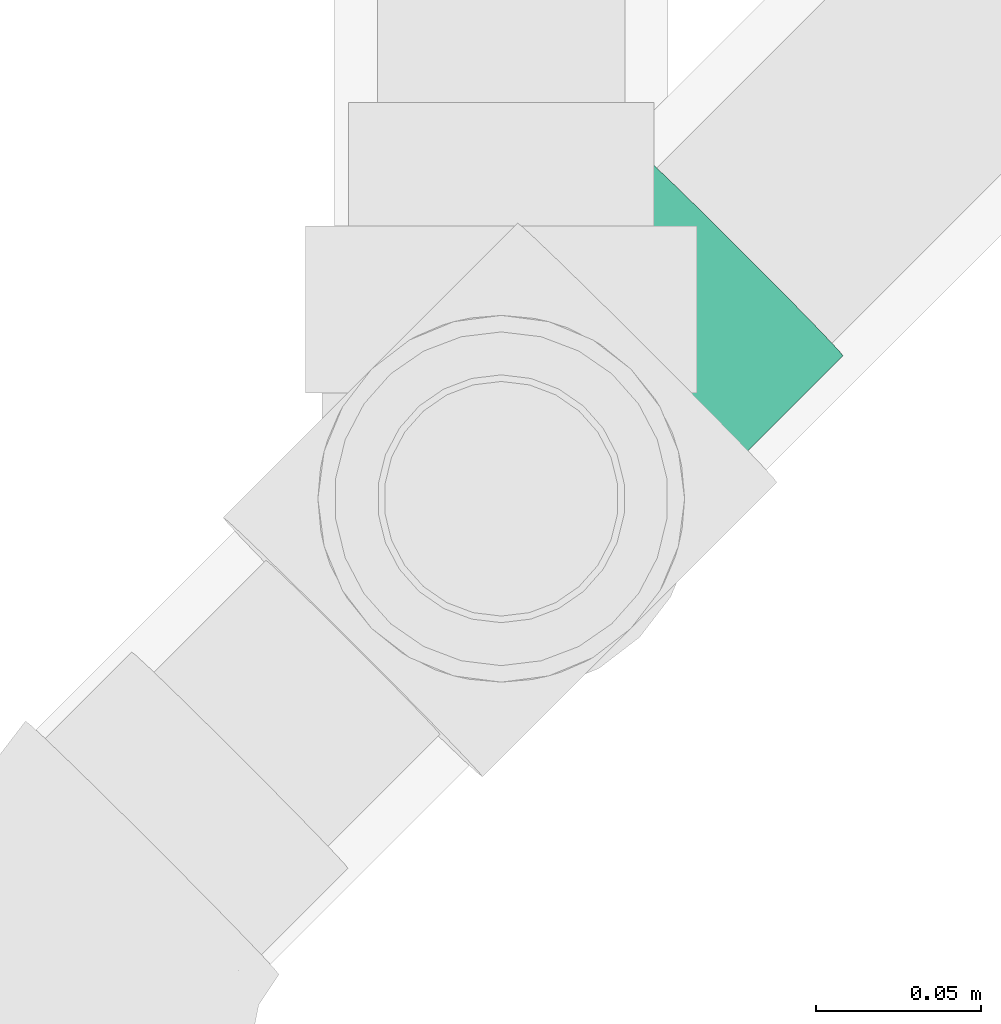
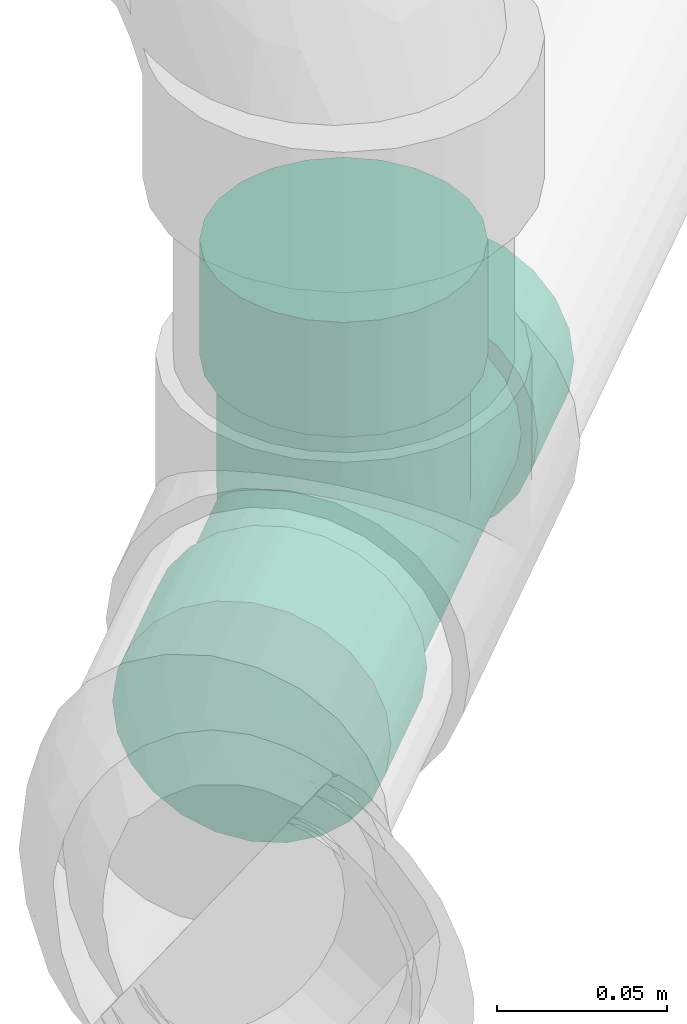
# One storey, part 110 of 156: 1 flow fitting.
"""IFC2X3 building model written with IfcOpenShell, lengths in millimetres."""

from ifc_helpers import new_model, entity, si_unit, converted_unit, derived_unit, direction, frame, origin_with_axes, place, context, subcontext, project, spatial, open_shell, surface_model, source, transform, mapped, type_object, element, save


model = new_model("IFC2X3")

# Units and contexts
model_context = context("Model", 3, precision=0.01, world=frame((0.0, 4.29681676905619e-09, 0.0)), true_north=direction((4.01073788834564e-13, 1.0)))
plan_context = context("Plan", 3, precision=0.01, world=frame((0.0, 4.29681676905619e-09, 0.0)), true_north=direction((4.01073788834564e-13, 1.0)))
body_context = subcontext(model_context, "Body", "Model", "MODEL_VIEW")
ifc_project = project(units=[converted_unit("PLANEANGLEUNIT", "DEGREE", entity("IfcPositiveLengthMeasure", 0.0174532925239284), si_unit("PLANEANGLEUNIT", "RADIAN"), dimensions=[0, 0, 0, 0, 0, 0, 0]), si_unit("AREAUNIT", "SQUARE_METRE"), si_unit("LENGTHUNIT", "METRE", prefix="MILLI"), si_unit("MASSUNIT", "GRAM", prefix="KILO"), si_unit("POWERUNIT", "WATT"), si_unit("PRESSUREUNIT", "PASCAL", prefix="KILO"), si_unit("FORCEUNIT", "NEWTON", prefix="KILO"), si_unit("ELECTRICVOLTAGEUNIT", "VOLT"), si_unit("ELECTRICCURRENTUNIT", "AMPERE"), si_unit("THERMODYNAMICTEMPERATUREUNIT", "DEGREE_CELSIUS"), si_unit("TIMEUNIT", "SECOND"), si_unit("VOLUMEUNIT", "CUBIC_METRE"), derived_unit("LINEARVELOCITYUNIT", [(si_unit("LENGTHUNIT", "METRE"), 1), (si_unit("TIMEUNIT", "SECOND"), -1)]), derived_unit("VOLUMETRICFLOWRATEUNIT", [(si_unit("VOLUMEUNIT", "CUBIC_METRE"), 1), (si_unit("TIMEUNIT", "SECOND"), -1)]), derived_unit("THERMALTRANSMITTANCEUNIT", [(si_unit("POWERUNIT", "WATT"), 1), (si_unit("THERMODYNAMICTEMPERATUREUNIT", "KELVIN"), -1), (si_unit("AREAUNIT", "SQUARE_METRE"), -1)]), derived_unit("SOUNDPRESSUREUNIT", [(si_unit("PRESSUREUNIT", "PASCAL"), 1)])], contexts=[model_context, plan_context])

# Site, building, storey
site_placement = place(None, frame((0.0, -4.29681676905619e-09, 0.0), z_axis=(0.0, 0.0, 1.0), x_axis=(1.0, 0.0, 0.0)))
site = spatial("IfcSite", under=ifc_project, at=site_placement, CompositionType="ELEMENT")
building_placement = place(site_placement, frame((0.0, 4.29681676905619e-09, 0.0), z_axis=(0.0, 0.0, 1.0), x_axis=(1.0, 0.0, 0.0)))
building = spatial("IfcBuilding", under=site, at=building_placement, Name="mc-building", CompositionType="ELEMENT")
storey_placement = place(building_placement, frame((0.0, 0.0, 205200.0), z_axis=(0.0, 0.0, 1.0), x_axis=(1.0, 0.0, 0.0)))
storey = spatial("IfcBuildingStorey", under=building, at=storey_placement, Name="Nivå D + 1,2 m", CompositionType="ELEMENT", Elevation=205200.0)

# Flow fitting
pipe_fitting_type = type_object("IfcPipeFittingType", Name="magi_sewer_tee_wye_NOR", PredefinedType="JUNCTION")
shared_shape = source(origin_with_axes(), body_context, "Body", "SurfaceModel", [
    surface_model("IfcShellBasedSurfaceModel", [(104.79898, 21.25, -36.80608), (104.79898, -10.99981, -41.05185), (104.79898, 10.99981, -41.05185), (104.79898, 36.80608, -21.25), (104.79898, 30.05204, -30.05204), (104.79898, 41.05185, -10.99981), (104.79898, 42.5, 0.0), (104.79898, -41.05185, -10.99981), (104.79898, -21.25, -36.80608), (104.79898, 0.0, -42.5), (104.79898, -30.05204, -30.05204), (104.79898, -36.80608, -21.25), (104.79898, 41.05185, 10.99981), (104.79898, 36.80608, 21.25), (104.79898, 30.05204, 30.05204), (104.79898, 10.99981, 41.05185), (104.79898, -36.80608, 21.25), (104.79898, 21.25, 36.80608), (104.79898, -10.99981, 41.05185), (104.79898, 0.0, 42.5), (104.79898, -41.05185, 10.99981), (104.79898, -42.5, 0.0), (104.79898, -30.05204, 30.05204), (104.79898, -21.25, 36.80608), (63.54898, 10.99981, 41.05185), (63.54898, -10.99981, 41.05185), (63.54898, 0.0, 42.5), (63.54898, 41.05185, 10.99981), (63.54898, 21.25, 36.80608), (63.54898, 30.05204, 30.05204), (63.54898, 36.80608, 21.25), (63.54898, -41.05185, -10.99981), (63.54898, -42.5, 0.0), (63.54898, -30.05204, 30.05204), (63.54898, -21.25, 36.80608), (63.54898, -36.80608, 21.25), (63.54898, -41.05185, 10.99981), (63.54898, 42.5, 0.0), (63.54898, 41.05185, -10.99981), (63.54898, 36.80608, -21.25), (63.54898, 21.25, -36.80608), (63.54898, 30.05204, -30.05204), (63.54898, -10.99981, -41.05185), (63.54898, 10.99981, -41.05185), (63.54898, -30.05204, -30.05204), (63.54898, -36.80608, -21.25), (63.54898, -21.25, -36.80608), (63.54898, 0.0, -42.5), (1.05421, -63.12271, -42.5), (-9.94406, -63.3064, -41.05185), (12.05249, -62.93903, -41.05185), (22.30125, -62.76787, -36.80608), (37.85516, -62.5081, -21.25), (43.54829, -62.41302, 0.0), (31.10206, -62.62089, -30.05204), (-41.43986, -63.83241, 0.0), (-20.19282, -63.47756, 36.80608), (-28.99363, -63.62455, -30.05204), (-35.74673, -63.73733, -21.25), (-20.19282, -63.47756, -36.80608), (-39.99191, -63.80823, -10.99981), (42.10034, -62.4372, -10.99981), (37.85516, -62.5081, 21.25), (42.10034, -62.4372, 10.99981), (22.30125, -62.76787, 36.80608), (31.10206, -62.62089, 30.05204), (12.05249, -62.93903, 41.05185), (1.05421, -63.12271, 42.5), (-28.99363, -63.62455, 30.05204), (-35.74673, -63.73733, 21.25), (-39.99191, -63.80823, 10.99981), (-9.94406, -63.3064, 41.05185), (12.74131, -104.18328, -41.05185), (-9.25524, -104.55065, -41.05185), (1.74303, -104.36697, -42.5), (22.99007, -104.01212, -36.80608), (44.23711, -103.65727, 0.0), (38.54398, -103.75235, -21.25), (31.79088, -103.86514, -30.05204), (-19.504, -104.72181, 36.80608), (-40.75104, -105.07665, 0.0), (-19.504, -104.72181, -36.80608), (-35.05791, -104.98157, -21.25), (-28.30481, -104.86879, -30.05204), (-39.30309, -105.05247, -10.99981), (42.78916, -103.68145, -10.99981), (42.78916, -103.68145, 10.99981), (38.54398, -103.75235, 21.25), (22.99007, -104.01212, 36.80608), (31.79088, -103.86514, 30.05204), (1.74303, -104.36697, 42.5), (12.74131, -104.18328, 41.05185), (-28.30481, -104.86879, 30.05204), (-35.05791, -104.98157, 21.25), (-39.30309, -105.05247, 10.99981), (-9.25524, -104.55065, 41.05185), (-103.74477, -21.25, -36.80608), (-103.74477, 10.99981, -41.05185), (-103.74477, -10.99981, -41.05185), (-103.74477, -36.80608, -21.25), (-103.74477, -30.05204, -30.05204), (-103.74477, -41.05185, -10.99981), (-103.74477, -42.5, 0.0), (-103.74477, 41.05185, -10.99981), (-103.74477, 21.25, -36.80608), (-103.74477, 0.0, -42.5), (-103.74477, 30.05204, -30.05204), (-103.74477, 36.80608, -21.25), (-103.74477, -41.05185, 10.99981), (-103.74477, -36.80608, 21.25), (-103.74477, -30.05204, 30.05204), (-103.74477, -10.99981, 41.05185), (-103.74477, 36.80608, 21.25), (-103.74477, -21.25, 36.80608), (-103.74477, 10.99981, 41.05185), (-103.74477, 0.0, 42.5), (-103.74477, 41.05185, 10.99981), (-103.74477, 42.5, 0.0), (-103.74477, 30.05204, 30.05204), (-103.74477, 21.25, 36.80608), (-62.49477, -10.99981, 41.05185), (-62.49477, 10.99981, 41.05185), (-62.49477, 0.0, 42.5), (-62.49477, -41.05185, 10.99981), (-62.49477, -21.25, 36.80608), (-62.49477, -30.05204, 30.05204), (-62.49477, -36.80608, 21.25), (-62.49477, 41.05185, -10.99981), (-62.49477, 42.5, 0.0), (-62.49477, 30.05204, 30.05204), (-62.49477, 21.25, 36.80608), (-62.49477, 36.80608, 21.25), (-62.49477, 41.05185, 10.99981), (-62.49477, -42.5, 0.0), (-62.49477, -41.05185, -10.99981), (-62.49477, -36.80608, -21.25), (-62.49477, -21.25, -36.80608), (-62.49477, -30.05204, -30.05204), (-62.49477, 10.99981, -41.05185), (-62.49477, -10.99981, -41.05185), (-62.49477, 30.05204, -30.05204), (-62.49477, 36.80608, -21.25), (-62.49477, 21.25, -36.80608), (-62.49477, 0.0, -42.5), (63.54898, 36.22222, -9.70571), (63.54898, 9.70571, -36.22222), (63.54898, 18.75, -32.47595), (63.54898, 32.47595, -18.75), (63.54898, 26.5165, -26.5165), (63.54898, 37.5, 0.0), (63.54898, -36.22222, -9.70571), (63.54898, 36.22222, 9.70571), (63.54898, 0.0, -37.5), (63.54898, -18.75, -32.47595), (63.54898, -9.70571, -36.22222), (63.54898, -32.47595, -18.75), (63.54898, -26.5165, -26.5165), (63.54898, 32.47595, 18.75), (63.54898, 26.5165, 26.5165), (63.54898, 18.75, 32.47595), (63.54898, 9.70571, 36.22222), (63.54898, 0.0, 37.5), (63.54898, -37.5, 0.0), (63.54898, -32.47595, 18.75), (63.54898, -36.22222, 9.70571), (63.54898, -26.5165, 26.5165), (63.54898, -18.75, 32.47595), (63.54898, -9.70571, 36.22222), (-62.49477, 0.0, 37.5), (-62.49477, 9.70571, 36.22222), (-62.49477, 18.75, 32.47595), (-62.49477, 26.5165, 26.5165), (-62.49477, 32.47595, 18.75), (-62.49477, 36.22222, 9.70571), (-62.49477, -26.5165, 26.5165), (-62.49477, -36.22222, -9.70571), (-62.49477, -18.75, 32.47595), (-62.49477, -9.70571, 36.22222), (-62.49477, -32.47595, 18.75), (-62.49477, -37.5, 0.0), (-62.49477, -36.22222, 9.70571), (-62.49477, 36.22222, -9.70571), (-62.49477, 9.70571, -36.22222), (-62.49477, 32.47595, -18.75), (-62.49477, 26.5165, -26.5165), (-62.49477, 18.75, -32.47595), (-62.49477, -32.47595, -18.75), (-62.49477, -18.75, -32.47595), (-62.49477, -26.5165, -26.5165), (-62.49477, 0.0, -37.5), (-62.49477, -9.70571, -36.22222), (-62.49477, 37.5, 0.0), (-62.49477, -36.86111, -4.85286), (-35.85639, -36.46023, -8.76935), (-36.36767, -36.98011, -4.38468), (-62.49477, -34.34909, -14.22786), (-34.44019, -35.02018, -12.7307), (35.56865, -34.97958, -12.83346), (63.54898, -34.34909, -14.22786), (-33.024, -33.58014, -16.69205), (-18.27415, -18.5819, -32.57243), (-62.49477, -22.63325, -29.49623), (-28.87369, -29.35994, -23.32904), (-62.49477, -29.49623, -22.63325), (-23.85274, -24.25444, -28.60022), (-30.94884, -31.47004, -20.01055), (34.08349, -33.51901, -16.81445), (63.54898, -36.86111, -4.85286), (37.59266, -36.97007, -4.42623), (37.05381, -36.44014, -8.85247), (38.13152, -37.5, 0.0), (63.54898, -22.63325, -29.49623), (18.79664, -18.48534, -32.62732), (29.75881, -29.26596, -23.44682), (24.55558, -24.1489, -28.68938), (63.54898, -29.49623, -22.63325), (31.92115, -31.39249, -20.13063), (-36.87894, -37.5, 0.0), (-12.34688, -12.5548, -35.33592), (-6.21875, -6.32347, -36.96301), (0.0, 0.0, -37.5), (12.69279, -12.48258, -35.36149), (6.39087, -6.28503, -36.96956), (-6.21875, -6.32347, 36.96301), (0.0, 0.0, 37.5), (-12.34688, -12.5548, 35.33592), (31.92115, -31.39249, 20.13063), (63.54898, -29.49623, 22.63325), (29.75881, -29.26596, 23.44682), (63.54898, -34.34909, 14.22786), (34.08349, -33.51901, 16.81445), (35.56865, -34.97958, 12.83346), (-36.36767, -36.98011, 4.38468), (-62.49477, -36.86111, 4.85286), (37.59266, -36.97007, 4.42623), (37.05381, -36.44014, 8.85247), (6.39087, -6.28503, 36.96956), (12.69279, -12.48258, 35.36149), (24.55558, -24.1489, 28.68938), (63.54898, -22.63325, 29.49623), (-62.49477, -22.63325, 29.49623), (-23.85274, -24.25444, 28.60022), (-33.024, -33.58014, 16.69205), (-62.49477, -34.34909, 14.22786), (-18.27415, -18.5819, 32.57243), (-28.87369, -29.35994, 23.32904), (-30.94884, -31.47004, 20.01055), (-62.49477, -29.49623, 22.63325), (-35.85639, -36.46023, 8.76935), (-34.44019, -35.02018, 12.7307), (63.54898, -36.86111, 4.85286), (18.79664, -18.48534, 32.62732), (10.75857, -62.96064, -36.22222), (-25.45859, -63.56551, -26.5165), (1.05421, -63.12271, -37.5), (33.52564, -62.58041, -18.75), (19.8016, -62.80962, -32.47595), (37.27138, -62.51785, -9.70571), (27.56702, -62.67992, -26.5165), (-8.65015, -63.28479, -36.22222), (-17.69317, -63.43582, -32.47595), (-35.16295, -63.72758, -9.70571), (-31.41721, -63.66502, -18.75), (-31.41721, -63.66502, 18.75), (-36.44056, -63.74892, 0.0), (38.54899, -62.49651, 0.0), (37.27138, -62.51785, 9.70571), (33.52564, -62.58041, 18.75), (19.8016, -62.80962, 32.47595), (-17.69317, -63.43582, 32.47595), (27.56702, -62.67992, 26.5165), (10.75857, -62.96064, 36.22222), (-25.45859, -63.56551, 26.5165), (-35.16295, -63.72758, 9.70571), (-8.65015, -63.28479, 36.22222), (1.05421, -63.12271, 37.5)], [open_shell([[[0, 1, 2]], [[3, 0, 4]], [[3, 5, 6]], [[3, 6, 0]], [[1, 0, 6]], [[1, 7, 8]], [[1, 9, 2]], [[10, 7, 11]], [[7, 10, 8]], [[6, 7, 1]], [[6, 12, 7]], [[12, 13, 14]], [[12, 14, 15]], [[7, 15, 16]], [[15, 14, 17]], [[18, 15, 19]], [[16, 20, 7]], [[21, 7, 20]], [[22, 18, 23]], [[18, 22, 16]], [[18, 16, 15]], [[15, 7, 12]], [[24, 25, 26]], [[27, 24, 28]], [[29, 30, 27]], [[29, 27, 28]], [[31, 32, 24]], [[25, 33, 34]], [[33, 25, 35]], [[25, 36, 35]], [[36, 25, 32]], [[25, 24, 32]], [[24, 27, 31]], [[37, 38, 39]], [[37, 39, 40]], [[40, 31, 27]], [[40, 39, 41]], [[42, 40, 43]], [[31, 44, 45]], [[44, 31, 46]], [[31, 42, 46]], [[31, 40, 42]], [[43, 47, 42]], [[40, 27, 37]], [[31, 7, 32]], [[45, 11, 31]], [[46, 8, 44]], [[44, 10, 45]], [[31, 11, 7]], [[7, 21, 32]], [[9, 1, 42]], [[1, 8, 46]], [[10, 44, 8]], [[10, 11, 45]], [[42, 1, 46]], [[42, 47, 9]], [[2, 43, 40]], [[41, 0, 40]], [[3, 39, 38]], [[41, 39, 4]], [[5, 38, 37]], [[43, 2, 9]], [[40, 0, 2]], [[41, 4, 0]], [[39, 3, 4]], [[5, 3, 38]], [[37, 6, 5]], [[43, 9, 47]], [[27, 12, 37]], [[30, 13, 27]], [[17, 29, 28]], [[30, 29, 14]], [[15, 28, 24]], [[27, 13, 12]], [[12, 6, 37]], [[15, 26, 19]], [[15, 17, 28]], [[14, 29, 17]], [[14, 13, 30]], [[26, 15, 24]], [[18, 25, 34]], [[33, 23, 34]], [[16, 35, 36]], [[33, 35, 22]], [[20, 36, 32]], [[34, 23, 18]], [[18, 19, 25]], [[22, 23, 33]], [[35, 16, 22]], [[20, 16, 36]], [[32, 21, 20]], [[25, 19, 26]], [[48, 49, 50]], [[51, 50, 52]], [[53, 52, 50]], [[54, 51, 52]], [[50, 55, 56]], [[57, 58, 59]], [[49, 59, 55]], [[60, 55, 58]], [[59, 58, 55]], [[55, 50, 49]], [[61, 52, 53]], [[62, 63, 53]], [[64, 62, 53]], [[56, 64, 53]], [[65, 62, 64]], [[66, 64, 67]], [[68, 56, 69]], [[69, 55, 70]], [[71, 67, 56]], [[56, 55, 69]], [[64, 56, 67]], [[56, 53, 50]], [[72, 73, 74]], [[75, 76, 72]], [[76, 75, 77]], [[77, 75, 78]], [[79, 80, 72]], [[81, 82, 83]], [[80, 81, 73]], [[82, 80, 84]], [[80, 82, 81]], [[73, 72, 80]], [[76, 77, 85]], [[76, 86, 87]], [[76, 87, 88]], [[76, 88, 79]], [[88, 87, 89]], [[90, 88, 91]], [[80, 92, 93]], [[94, 80, 93]], [[79, 90, 95]], [[80, 79, 92]], [[90, 79, 88]], [[72, 76, 79]], [[94, 55, 80]], [[93, 70, 94]], [[68, 92, 79]], [[93, 92, 69]], [[56, 79, 95]], [[93, 69, 70]], [[70, 55, 94]], [[90, 67, 71]], [[68, 79, 56]], [[68, 69, 92]], [[95, 71, 56]], [[71, 95, 90]], [[64, 91, 88]], [[89, 65, 88]], [[63, 87, 86]], [[89, 87, 62]], [[53, 86, 76]], [[91, 66, 90]], [[91, 64, 66]], [[90, 66, 67]], [[88, 65, 64]], [[89, 62, 65]], [[63, 62, 87]], [[86, 53, 63]], [[85, 53, 76]], [[77, 61, 85]], [[78, 75, 54]], [[77, 78, 52]], [[50, 75, 72]], [[77, 52, 61]], [[61, 53, 85]], [[51, 54, 75]], [[50, 72, 48]], [[54, 52, 78]], [[75, 50, 51]], [[72, 74, 48]], [[59, 73, 81]], [[83, 57, 81]], [[60, 82, 84]], [[83, 82, 58]], [[55, 84, 80]], [[73, 49, 74]], [[73, 59, 49]], [[74, 49, 48]], [[81, 57, 59]], [[83, 58, 57]], [[60, 58, 82]], [[84, 55, 60]], [[96, 97, 98]], [[99, 96, 100]], [[99, 101, 102]], [[99, 102, 96]], [[97, 96, 102]], [[97, 103, 104]], [[97, 105, 98]], [[106, 103, 107]], [[103, 106, 104]], [[102, 103, 97]], [[102, 108, 103]], [[108, 109, 110]], [[108, 110, 111]], [[103, 111, 112]], [[111, 110, 113]], [[114, 111, 115]], [[112, 116, 103]], [[117, 103, 116]], [[118, 114, 119]], [[114, 118, 112]], [[114, 112, 111]], [[111, 103, 108]], [[120, 121, 122]], [[123, 120, 124]], [[125, 126, 123]], [[125, 123, 124]], [[127, 128, 120]], [[121, 129, 130]], [[129, 121, 131]], [[121, 132, 131]], [[132, 121, 128]], [[121, 120, 128]], [[120, 123, 127]], [[133, 134, 135]], [[133, 135, 136]], [[136, 127, 123]], [[136, 135, 137]], [[138, 136, 139]], [[127, 140, 141]], [[140, 127, 142]], [[127, 138, 142]], [[127, 136, 138]], [[139, 143, 138]], [[136, 123, 133]], [[127, 103, 128]], [[141, 107, 127]], [[142, 104, 140]], [[140, 106, 141]], [[127, 107, 103]], [[103, 117, 128]], [[105, 97, 138]], [[97, 104, 142]], [[106, 140, 104]], [[106, 107, 141]], [[138, 97, 142]], [[138, 143, 105]], [[98, 139, 136]], [[137, 96, 136]], [[99, 135, 134]], [[137, 135, 100]], [[101, 134, 133]], [[139, 98, 105]], [[136, 96, 98]], [[137, 100, 96]], [[135, 99, 100]], [[101, 99, 134]], [[133, 102, 101]], [[139, 105, 143]], [[123, 108, 133]], [[126, 109, 123]], [[113, 125, 124]], [[126, 125, 110]], [[111, 124, 120]], [[123, 109, 108]], [[108, 102, 133]], [[111, 122, 115]], [[111, 113, 124]], [[110, 125, 113]], [[110, 109, 126]], [[122, 111, 120]], [[114, 121, 130]], [[129, 119, 130]], [[112, 131, 132]], [[129, 131, 118]], [[116, 132, 128]], [[130, 119, 114]], [[114, 115, 121]], [[118, 119, 129]], [[131, 112, 118]], [[116, 112, 132]], [[128, 117, 116]], [[121, 115, 122]], [[144, 145, 146]], [[147, 146, 148]], [[144, 149, 145]], [[144, 146, 147]], [[150, 145, 151]], [[152, 153, 154]], [[153, 152, 155]], [[153, 155, 156]], [[155, 152, 150]], [[152, 145, 150]], [[145, 149, 151]], [[151, 157, 158]], [[151, 158, 159]], [[159, 160, 161]], [[159, 161, 151]], [[151, 161, 162]], [[162, 163, 164]], [[163, 162, 165]], [[161, 166, 165]], [[165, 162, 161]], [[167, 166, 161]], [[151, 162, 150]], [[168, 169, 170]], [[168, 170, 171]], [[171, 172, 173]], [[171, 173, 168]], [[174, 168, 175]], [[168, 176, 177]], [[168, 174, 176]], [[178, 179, 180]], [[179, 178, 174]], [[174, 175, 179]], [[175, 168, 173]], [[175, 173, 181]], [[182, 181, 183]], [[184, 185, 182]], [[184, 182, 183]], [[175, 181, 182]], [[186, 187, 188]], [[187, 186, 175]], [[187, 189, 190]], [[187, 175, 182]], [[182, 189, 187]], [[181, 173, 191]], [[192, 175, 193]], [[179, 192, 194]], [[175, 195, 196]], [[150, 197, 198]], [[195, 186, 199]], [[187, 200, 201]], [[188, 202, 203]], [[202, 188, 204]], [[192, 193, 194]], [[186, 205, 199]], [[200, 204, 201]], [[205, 203, 202]], [[206, 198, 197]], [[195, 199, 196]], [[207, 208, 209]], [[208, 162, 210]], [[150, 209, 197]], [[162, 208, 207]], [[175, 196, 193]], [[204, 188, 201]], [[211, 212, 153]], [[213, 214, 156]], [[215, 155, 216]], [[156, 214, 211]], [[203, 205, 186]], [[215, 216, 213]], [[179, 194, 217]], [[187, 218, 200]], [[190, 189, 219]], [[206, 155, 198]], [[219, 218, 190]], [[220, 219, 189]], [[212, 211, 214]], [[189, 182, 220]], [[155, 206, 216]], [[148, 184, 183]], [[147, 183, 181]], [[145, 182, 185]], [[146, 185, 184]], [[145, 220, 182]], [[144, 181, 191]], [[221, 222, 154]], [[209, 150, 207]], [[154, 153, 221]], [[154, 222, 152]], [[221, 153, 212]], [[220, 152, 222]], [[213, 156, 215]], [[145, 152, 220]], [[146, 145, 185]], [[146, 184, 148]], [[147, 148, 183]], [[144, 147, 181]], [[191, 149, 144]], [[218, 187, 190]], [[171, 157, 172]], [[151, 191, 173]], [[158, 171, 170]], [[172, 151, 173]], [[168, 177, 223]], [[169, 168, 224]], [[223, 177, 225]], [[226, 227, 228]], [[170, 169, 159]], [[177, 176, 225]], [[168, 223, 224]], [[229, 230, 231]], [[151, 172, 157]], [[179, 232, 233]], [[159, 158, 170]], [[157, 171, 158]], [[149, 191, 151]], [[162, 234, 210]], [[164, 231, 235]], [[236, 237, 167]], [[224, 236, 161]], [[224, 161, 160]], [[161, 236, 167]], [[237, 166, 167]], [[160, 159, 169]], [[224, 160, 169]], [[238, 165, 239]], [[240, 174, 241]], [[242, 178, 243]], [[244, 176, 240]], [[245, 241, 174]], [[178, 242, 246]], [[178, 246, 247]], [[176, 244, 225]], [[180, 248, 249]], [[179, 217, 232]], [[242, 243, 249]], [[248, 233, 232]], [[250, 235, 234]], [[246, 245, 247]], [[238, 239, 251]], [[248, 180, 233]], [[239, 166, 251]], [[165, 238, 228]], [[165, 228, 227]], [[245, 174, 247]], [[251, 166, 237]], [[180, 249, 243]], [[227, 226, 163]], [[162, 250, 234]], [[164, 229, 231]], [[230, 229, 163]], [[164, 235, 250]], [[230, 163, 226]], [[244, 240, 241]], [[252, 253, 254]], [[255, 252, 256]], [[255, 257, 252]], [[255, 256, 258]], [[253, 252, 257]], [[259, 253, 260]], [[259, 254, 253]], [[253, 261, 262]], [[257, 261, 253]], [[261, 263, 264]], [[261, 257, 265]], [[265, 266, 267]], [[265, 267, 268]], [[265, 268, 269]], [[268, 267, 270]], [[269, 268, 271]], [[263, 269, 272]], [[273, 264, 263]], [[271, 274, 269]], [[261, 269, 263]], [[275, 274, 271]], [[261, 265, 269]], [[248, 217, 264]], [[273, 248, 264]], [[272, 269, 241]], [[245, 263, 272]], [[242, 273, 263]], [[225, 269, 274]], [[242, 248, 273]], [[241, 245, 272]], [[242, 263, 245]], [[225, 244, 269]], [[275, 224, 223]], [[225, 274, 223]], [[241, 269, 244]], [[223, 274, 275]], [[236, 275, 271]], [[268, 237, 271]], [[267, 266, 230]], [[228, 270, 267]], [[238, 268, 270]], [[235, 266, 265]], [[238, 251, 268]], [[237, 236, 271]], [[251, 237, 268]], [[210, 235, 265]], [[230, 228, 267]], [[235, 230, 266]], [[238, 270, 228]], [[275, 236, 224]], [[210, 265, 209]], [[257, 209, 265]], [[213, 255, 258]], [[258, 256, 214]], [[206, 257, 255]], [[221, 256, 252]], [[206, 209, 257]], [[214, 213, 258]], [[206, 255, 213]], [[221, 212, 256]], [[254, 220, 222]], [[221, 252, 222]], [[214, 256, 212]], [[222, 252, 254]], [[219, 254, 259]], [[260, 218, 259]], [[262, 261, 199]], [[202, 253, 262]], [[204, 260, 253]], [[193, 261, 264]], [[204, 200, 260]], [[218, 219, 259]], [[200, 218, 260]], [[217, 193, 264]], [[199, 202, 262]], [[193, 199, 261]], [[204, 253, 202]], [[254, 219, 220]]])]),
])
flow_fitting_placement = place(storey_placement, frame((322778.39807, 462759.88016, 4032.30694000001), z_axis=(0.707054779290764, -0.7071587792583, -1.73472347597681e-18), x_axis=(-0.707060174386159, -0.70695618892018, 0.0166990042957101)))
element("IfcFlowFitting", 1, at=flow_fitting_placement, inside=storey, type_object=pipe_fitting_type, Name="magi_sewer_tee_wye_NOR", context=body_context, shape_type="MappedRepresentation", body=[
    mapped(shared_shape, transform((0.0, 0.0, 0.0), scale=1.0)),
])

save(model, "model.ifc")
